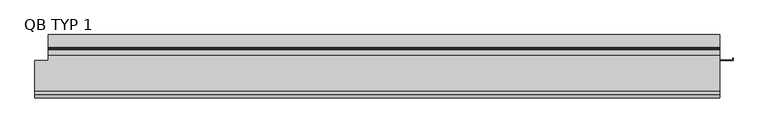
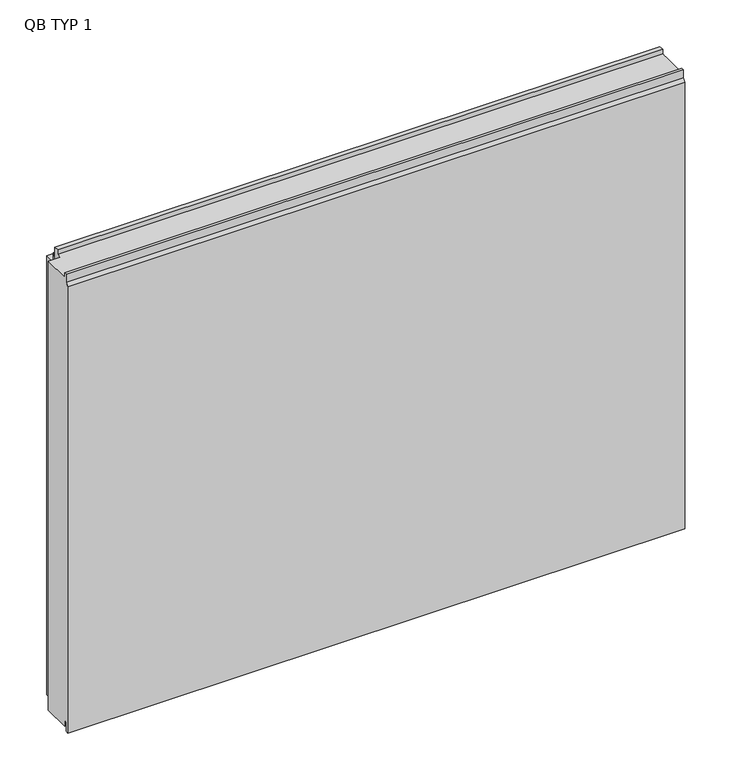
"""IFC4 building model written with IfcOpenShell, lengths in millimetres: plate geometry, TR_C_H_QBISS_Panel : QB TYP 1."""

import ifcopenshell
import ifcopenshell.guid

model = None  # the IFC model being written
_history = None  # IfcOwnerHistory: only IFC2X3 demands one
_inside = {}  # id of a spatial element -> (the spatial element, [elements in it])
_under = {}  # id of a project, library or spatial element -> (it, [spatial elements below it])
_declared = {}  # id of a project -> (the project, [libraries it declares])
_typed = {}  # id of a type object -> (the type object, [elements of that type])
_made_of = {}  # id of a material, layer set ... -> (it, [elements and type objects made of it])


def new_model(schema):
    """Start an empty IFC model of exactly this schema.

    Asked for "IFC4X3", IfcOpenShell would pick the latest addendum, in which some entities
    have other attributes; the version numbers below select the first issue.
    IFC2X3 requires an IfcOwnerHistory on every rooted entity: one is made here for all.
    """
    global model, _history
    if schema == "IFC4X3":
        model = ifcopenshell.file(schema_version=(4, 3, 0, 0))
    else:
        model = ifcopenshell.file(schema=schema)
    _inside.clear()
    _under.clear()
    _declared.clear()
    _typed.clear()
    _made_of.clear()
    _history = None
    if model.schema == "IFC2X3":
        org = make("IfcOrganization", Name="unknown")
        user = make(
            "IfcPersonAndOrganization",
            ThePerson=make("IfcPerson", FamilyName="unknown"),
            TheOrganization=org,
        )
        app = make(
            "IfcApplication",
            ApplicationDeveloper=org,
            Version="unknown",
            ApplicationFullName="unknown",
            ApplicationIdentifier="unknown",
        )
        _history = make(
            "IfcOwnerHistory",
            OwningUser=user,
            OwningApplication=app,
            ChangeAction="ADDED",
            CreationDate=0,
        )
    return model


def make(cls, **values):
    """One entity of the class cls with the attributes given. An attribute that is None is left unset."""
    return model.create_entity(
        cls, **{name: value for name, value in values.items() if value is not None}
    )


def rooted(cls, **values):
    """An entity with a GlobalId (a new one), such as an element, a storey or a relation."""
    return make(cls, GlobalId=ifcopenshell.guid.new(), OwnerHistory=_history, **values)


def si_unit(unit_type, name, prefix=None):
    """IfcSIUnit, for example si_unit("LENGTHUNIT", "METRE", prefix="MILLI")."""
    return make("IfcSIUnit", UnitType=unit_type, Prefix=prefix, Name=name)


def assignment(units):
    """IfcUnitAssignment: the units of a project."""
    return None if units is None else make("IfcUnitAssignment", Units=units)


def point(xyz):
    """IfcCartesianPoint."""
    return None if xyz is None else make("IfcCartesianPoint", Coordinates=xyz)


def direction(xyz):
    """IfcDirection."""
    return None if xyz is None else make("IfcDirection", DirectionRatios=xyz)


def frame(location, z_axis=None, x_axis=None):
    """IfcAxis2Placement3D, a coordinate frame: its origin and axes. An axis left out is left unset."""
    return make(
        "IfcAxis2Placement3D",
        Location=point(location),
        Axis=direction(z_axis),
        RefDirection=direction(x_axis),
    )


def origin():
    """The frame at (0, 0, 0) with its axes left unset."""
    return frame((0.0, 0.0, 0.0))


def place(relative_to, where):
    """IfcLocalPlacement: puts the frame where relative to a parent placement (None: the world)."""
    return make(
        "IfcLocalPlacement", PlacementRelTo=relative_to, RelativePlacement=where
    )


def context(
    kind, dimensions, precision=None, world=None, true_north=None, identifier=None
):
    """IfcGeometricRepresentationContext, for example the 3D "Model" context."""
    return make(
        "IfcGeometricRepresentationContext",
        ContextIdentifier=identifier,
        ContextType=kind,
        CoordinateSpaceDimension=dimensions,
        Precision=precision,
        WorldCoordinateSystem=world,
        TrueNorth=true_north,
    )


def project(units=None, contexts=None):
    """IfcProject with its units and contexts."""
    return rooted(
        "IfcProject",
        Name="project",
        RepresentationContexts=contexts,
        UnitsInContext=assignment(units),
    )


def spatial(cls, under=None, at=None, **own):
    """A site, building, storey or space (cls), placed at a placement, below another one or the project."""
    s = rooted(cls, ObjectPlacement=at, **own)
    if under is not None:
        _under.setdefault(under.id(), (under, []))[1].append(s)
    return s


def polyline(points):
    """IfcPolyline through the points."""
    return make("IfcPolyline", Points=[point(p) for p in points])


def outline(outer, holes=None, kind="AREA"):
    """IfcArbitraryClosedProfileDef: a profile drawn as a closed curve; with holes, ...WithVoids."""
    if holes is None:
        return make("IfcArbitraryClosedProfileDef", ProfileType=kind, OuterCurve=outer)
    return make(
        "IfcArbitraryProfileDefWithVoids",
        ProfileType=kind,
        OuterCurve=outer,
        InnerCurves=holes,
    )


def extrude(swept, where, along, depth):
    """IfcExtrudedAreaSolid: the profile swept, set in the frame where, extruded along a direction by depth."""
    return make(
        "IfcExtrudedAreaSolid",
        SweptArea=swept,
        Position=where,
        ExtrudedDirection=direction(along),
        Depth=depth,
    )


def faces_of(points, faces, orient=None, outer=None):
    """IfcFace entities. A face is a list of loops; a loop is a list of indices into points, from 0.

    orient and outer hold one flag for each loop. By default every Orientation is true, the
    first loop of a face is its IfcFaceOuterBound and the others are IfcFaceBound.
    """
    made = []
    for i, loops in enumerate(faces):
        bounds = []
        for j, loop in enumerate(loops):
            is_outer = j == 0 if outer is None else outer[i][j]
            bounds.append(
                make(
                    "IfcFaceOuterBound" if is_outer else "IfcFaceBound",
                    Bound=make("IfcPolyLoop", Polygon=[points[k] for k in loop]),
                    Orientation=True if orient is None else orient[i][j],
                )
            )
        made.append(make("IfcFace", Bounds=bounds))
    return made


def faceted_brep(points, faces, orient=None, outer=None, voids=None):
    """IfcFacetedBrep: a solid bounded by flat faces; with voids (closed shells), ...WithVoids."""
    shared = [point(p) for p in points]
    hull = make("IfcClosedShell", CfsFaces=faces_of(shared, faces, orient, outer))
    if voids is None:
        return make("IfcFacetedBrep", Outer=hull)
    return make(
        "IfcFacetedBrepWithVoids",
        Outer=hull,
        Voids=[
            make(cls, CfsFaces=faces_of(shared, fs, o, b)) for cls, fs, o, b in voids
        ],
    )


def shape(context_of_items, identifier, shape_type, items):
    """IfcShapeRepresentation: the items that make up one representation, for example the "Body"."""
    return make(
        "IfcShapeRepresentation",
        ContextOfItems=context_of_items,
        RepresentationIdentifier=identifier,
        RepresentationType=shape_type,
        Items=items,
    )


def source(mapping_origin, context_of_items, identifier, shape_type, items):
    """IfcRepresentationMap: a shape defined once, which mapped items show again and again."""
    return make(
        "IfcRepresentationMap",
        MappingOrigin=mapping_origin,
        MappedRepresentation=shape(context_of_items, identifier, shape_type, items),
    )


def transform(
    local_origin,
    x_axis=None,
    y_axis=None,
    z_axis=None,
    scale=None,
    scale2=None,
    scale3=None,
    uniform=True,
):
    """IfcCartesianTransformationOperator3D, or its non-uniform kind. x_axis, y_axis, z_axis: its Axis1, 2, 3."""
    if uniform:
        return make(
            "IfcCartesianTransformationOperator3D",
            Axis1=direction(x_axis),
            Axis2=direction(y_axis),
            LocalOrigin=point(local_origin),
            Scale=scale,
            Axis3=direction(z_axis),
        )
    return make(
        "IfcCartesianTransformationOperator3DnonUniform",
        Axis1=direction(x_axis),
        Axis2=direction(y_axis),
        LocalOrigin=point(local_origin),
        Scale=scale,
        Axis3=direction(z_axis),
        Scale2=scale2,
        Scale3=scale3,
    )


def mapped(mapping_source, mapping_target):
    """IfcMappedItem: shows the shape of a source again, moved by a transform."""
    return make(
        "IfcMappedItem", MappingSource=mapping_source, MappingTarget=mapping_target
    )


def made_of(thing, what):
    """Note that an element or type object is made of a material, layer set ...; save() writes the relation."""
    if what is not None:
        _made_of.setdefault(what.id(), (what, []))[1].append(thing)
    return thing


def element(
    cls,
    number,
    at=None,
    inside=None,
    cuts=None,
    type_object=None,
    material=None,
    context=None,
    identifier="Body",
    shape_type=None,
    held_by="IfcProductDefinitionShape",
    body=None,
    shapes=None,
    **own,
):
    """One element of the class cls, such as IfcWall. Its Tag is "e" and its number.

    at: its placement. inside: the storey or other place that contains it. cuts: it is an
    opening in that element (IfcRelVoidsElement). A single representation is given by context,
    identifier, shape_type and body (its items); several are given by shapes. held_by: the class
    of the entity that holds the representations. save() writes the other relations.
    """
    e = rooted(cls, Tag="e%d" % number, ObjectPlacement=at, **own)
    if body is not None:
        shapes = [shape(context, identifier, shape_type, body)]
    if shapes is not None:
        e.Representation = make(held_by, Representations=shapes)
    if inside is not None:
        _inside.setdefault(inside.id(), (inside, []))[1].append(e)
    if cuts is not None:
        rooted(
            "IfcRelVoidsElement", RelatingBuildingElement=cuts, RelatedOpeningElement=e
        )
    if type_object is not None:
        _typed.setdefault(type_object.id(), (type_object, []))[1].append(e)
    return made_of(e, material)


def aggregate(whole, parts):
    """IfcRelAggregates: a whole, such as a stair, and the parts it consists of."""
    return rooted("IfcRelAggregates", RelatingObject=whole, RelatedObjects=parts)


def save(model, path):
    """Write the relations noted so far, then the file.

    IfcRelAggregates (storeys below a building ...), IfcRelContainedInSpatialStructure (elements
    in a storey), IfcRelDefinesByType, IfcRelAssociatesMaterial and IfcRelDeclares: one each for
    every whole, place, type object, material and project.
    """
    for whole, parts in _under.values():
        aggregate(whole, parts)
    for where, things in _inside.values():
        rooted(
            "IfcRelContainedInSpatialStructure",
            RelatedElements=things,
            RelatingStructure=where,
        )
    for kind, things in _typed.values():
        rooted("IfcRelDefinesByType", RelatedObjects=things, RelatingType=kind)
    for what, things in _made_of.values():
        rooted("IfcRelAssociatesMaterial", RelatedObjects=things, RelatingMaterial=what)
    for by, libraries in _declared.values():
        rooted("IfcRelDeclares", RelatingContext=by, RelatedDefinitions=libraries)
    model.write(path)


def qb_typ_1_9b423ec7(model_context):
    return source(origin(), model_context, "Body", "SolidModel", [
        extrude(outline(polyline([(662.5, -49.0), (637.3, -49.0), (637.3, -48.2), (661.7, -48.2), (661.7, -44.0), (662.5, -44.0), (662.5, -49.0)])), frame((0.0, 0.0, 54.0), z_axis=(0.0, 0.0, 1.0), x_axis=(1.0, 0.0, 0.0)), (0.0, 0.0, 1.0), 862.0),
        faceted_brep([(637.5, -108.0, 1000.0), (637.5, -108.0, 1010.0), (637.5, -114.0, 1010.0), (637.5, -114.0, 992.0), (637.5, -120.0, 986.0), (637.5, -120.0, -8.0), (637.5, -114.0, -8.0), (637.5, -114.0, 13.0), (637.5, -108.0, 13.0), (637.5, -108.0, 0.0), (637.5, -49.0, 0.0), (637.5, -49.0, 1000.0), (-662.4, -108.0, 0.0), (-662.4, -108.0, 13.0), (-662.4, -114.0, 13.0), (-662.4, -114.0, -8.0), (-662.4, -120.0, -8.0), (-662.4, -120.0, 986.0), (-662.4, -114.0, 992.0), (-662.4, -114.0, 1010.0), (-662.4, -108.0, 1010.0), (-662.4, -108.0, 1000.0), (-662.4, -49.0, 1000.0), (-662.4, -49.0, 0.0), (-637.3, -49.0, 0.0), (-637.3, -39.0, 0.0), (637.3, -39.0, 0.0), (637.3, -49.0, 0.0), (-637.3, -39.0, 13.0), (637.3, -39.0, 13.0), (-637.3, -29.0, 13.0), (637.3, -29.0, 13.0), (-637.3, -29.0, -4.0), (637.3, -29.0, -4.0), (-637.3, 0.0, -4.0), (637.3, 0.0, -4.0), (-637.3, 0.0, 973.0), (637.3, 0.0, 973.0), (-637.3, -29.0, 973.0), (637.3, -29.0, 973.0), (-637.3, -29.0, 1010.0), (637.3, -29.0, 1010.0), (-637.3, -39.0, 1010.0), (637.3, -39.0, 1010.0), (-637.3, -39.0, 1000.0), (637.3, -39.0, 1000.0), (637.3, -49.0, 1000.0), (-637.3, -49.0, 1000.0)], [[[0, 1, 2, 3, 4, 5, 6, 7, 8, 9, 10, 11]], [[12, 13, 14, 15, 16, 17, 18, 19, 20, 21, 22, 23]], [[9, 12, 23, 24, 25, 26, 27, 10]], [[26, 25, 28, 29]], [[29, 28, 30, 31]], [[31, 30, 32, 33]], [[33, 32, 34, 35]], [[35, 34, 36, 37]], [[37, 36, 38, 39]], [[39, 38, 40, 41]], [[41, 40, 42, 43]], [[43, 42, 44, 45]], [[21, 0, 11, 46, 45, 44, 47, 22]], [[1, 0, 21, 20]], [[2, 1, 20, 19]], [[3, 2, 19, 18]], [[4, 3, 18, 17]], [[5, 4, 17, 16]], [[6, 5, 16, 15]], [[7, 6, 15, 14]], [[8, 7, 14, 13]], [[9, 8, 13, 12]], [[47, 24, 23, 22]], [[24, 47, 44, 42, 40, 38, 36, 34, 32, 30, 28, 25]], [[46, 27, 26, 29, 31, 33, 35, 37, 39, 41, 43, 45]], [[27, 46, 11, 10]]]),
        extrude(outline(polyline([(-24.0, 994.5), (-24.0, 974.5), (-25.4998317, 974.5), (-25.4998317, 981.3023028), (-27.9998293, 981.3023028), (-27.9998293, 980.5023028), (-28.7998428, 980.5023028), (-28.7998428, 988.5023593), (-27.9998293, 988.5023593), (-27.9998293, 987.7023593), (-25.4998317, 987.7023593), (-25.4998317, 994.5), (-24.0, 994.5)])), frame((-637.3, 0.0, 0.0), z_axis=(1.0, 0.0, 0.0), x_axis=(0.0, 1.0, 0.0)), (0.0, 0.0, 1.0), 1274.6),
    ])


if __name__ == "__main__":
    model = new_model("IFC4")
    model_context = context("Model", 3, world=origin())
    ifc_project = project(units=[si_unit("LENGTHUNIT", "METRE", prefix="MILLI")], contexts=[model_context])
    site = spatial("IfcSite", under=ifc_project)
    building = spatial("IfcBuilding", under=site)
    placement = place(None, origin())
    qb_typ_1_shape = qb_typ_1_9b423ec7(model_context)
    element("IfcPlate", 1, ObjectType="TR_C_H_QBISS_Panel : QB TYP 1", at=placement, inside=building, context=model_context, shape_type="MappedRepresentation", body=[
        mapped(qb_typ_1_shape, transform((0.0, 0.0, 0.0), x_axis=(1.0, 0.0, 0.0), y_axis=(0.0, 1.0, 0.0), z_axis=(0.0, 0.0, 1.0))),
    ])
    save(model, "model.ifc")
